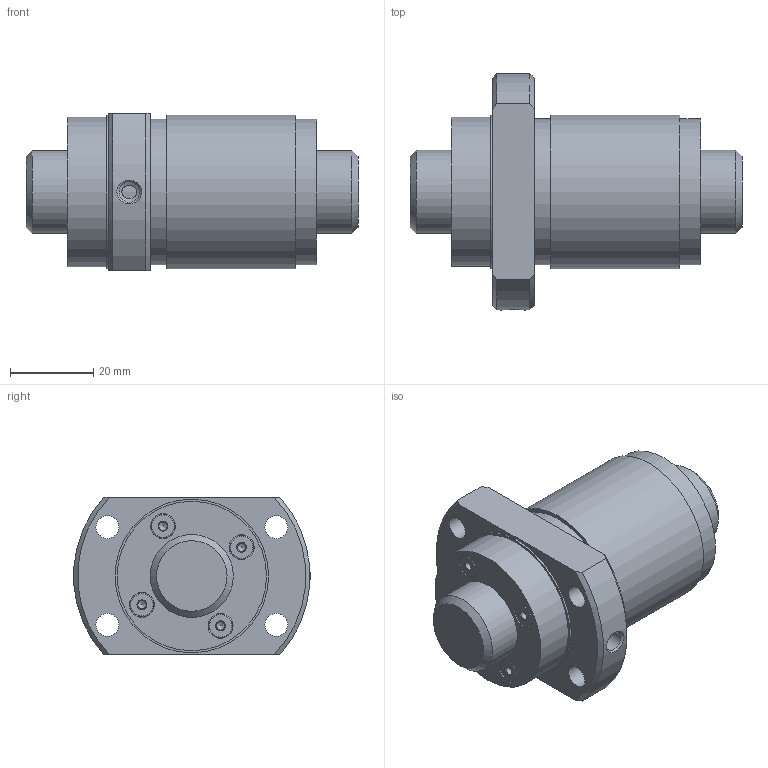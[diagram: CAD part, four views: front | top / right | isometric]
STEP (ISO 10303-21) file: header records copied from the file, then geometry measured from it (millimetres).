
FILE_DESCRIPTION(/* description */ ('STEP AP203'),/* implementation_level */ '2;1');
FILE_NAME(/* name */ 'WGF2060-1.5G1+80LC3_0_13_0_0',/* time_stamp */ '2025-01-16T06:26:18+01:00',/* author */ ('License CC BY-ND 4.0'),/* organization */ ('CADENAS'),/* preprocessor_version */ 'ST-DEVELOPER v19.3',/* originating_system */ 'PARTsolutions',/* authorisation */ ' ');
FILE_SCHEMA (('CONFIG_CONTROL_DESIGN'));
Length unit declared in the file: millimetre
Products named in the file (3): WGF2060-1.5G1+80LC3_0_13_0_0; 0130WGF2060-1.50Shaft; RR0130WGF2060-1.5Nut
Assembly tree (2 placements, depth 2):
  WGF2060-1.5G1+80LC3_0_13_0_0
    0130WGF2060-1.50Shaft
    RR0130WGF2060-1.5Nut
Bounding box: 80 x 56.91 x 38 mm (x, y, z)
Volume: 76883.8 mm3; surface area: 21761.7 mm2
Topology: 2 solids, 2 shells, 65 faces, 132 edges, 84 vertices
Faces by surface type: cylinder 26, plane 19, cone 16, torus 4
Full cylindrical faces by diameter (mm): 2 x4, 4.917 x1, 5.5 x4, 5.8 x4, 6 x4, 20 x2, 35.15 x2, 36 x1, 37 x2
Entity records: 1585 total; most frequent: CARTESIAN_POINT 278, DIRECTION 276, ORIENTED_EDGE 168, FACE_BOUND 134, AXIS2_PLACEMENT_3D 134, EDGE_LOOP 130, EDGE_CURVE 84, VERTEX_POINT 80
